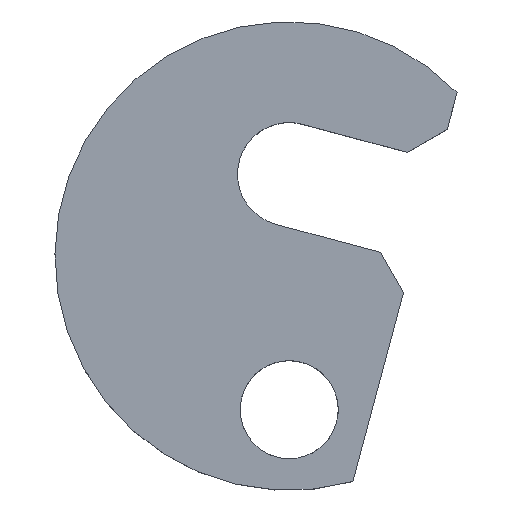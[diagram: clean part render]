
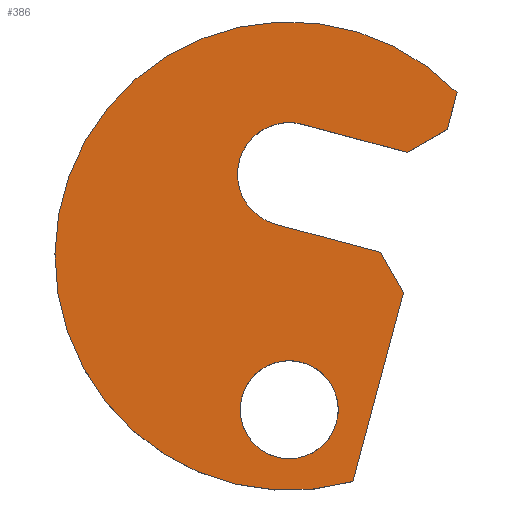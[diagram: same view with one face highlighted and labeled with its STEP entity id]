
A CAD part, top view. The second image highlights one B-rep face of the part: STEP entity #386.
In plain terms, the highlighted planar face has unit normal (0, 0, 1).
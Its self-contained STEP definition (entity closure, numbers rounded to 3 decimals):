
#151=CARTESIAN_POINT('Vertex',(5.844,-20.691,8.)) ;
#158=CARTESIAN_POINT('Vertex',(10.494,-3.335,8.)) ;
#161=CARTESIAN_POINT('Line Origine',(8.169,-12.013,8.)) ;
#182=CARTESIAN_POINT('Vertex',(8.373,0.339,8.)) ;
#185=CARTESIAN_POINT('Line Origine',(9.434,-1.498,8.)) ;
#206=CARTESIAN_POINT('Vertex',(-1.229,2.912,8.)) ;
#209=CARTESIAN_POINT('Line Origine',(3.572,1.625,8.)) ;
#226=CARTESIAN_POINT('Axis2P3D Location',(0.,7.5,8.)) ;
#230=CARTESIAN_POINT('Vertex',(1.229,12.088,8.)) ;
#254=CARTESIAN_POINT('Vertex',(10.832,9.515,8.)) ;
#257=CARTESIAN_POINT('Line Origine',(6.031,10.802,8.)) ;
#278=CARTESIAN_POINT('Vertex',(14.506,11.637,8.)) ;
#281=CARTESIAN_POINT('Line Origine',(12.669,10.576,8.)) ;
#293=CARTESIAN_POINT('Line Origine',(14.956,13.317,8.)) ;
#297=CARTESIAN_POINT('Vertex',(15.406,14.996,8.)) ;
#317=CARTESIAN_POINT('Axis2P3D Location',(0.,0.,8.)) ;
#329=CARTESIAN_POINT('Axis2P3D Location',(0.,0.,8.)) ;
#345=CARTESIAN_POINT('Control Point',(2.157,-10.151,8.)) ;
#346=CARTESIAN_POINT('Control Point',(1.537,-9.812,8.)) ;
#347=CARTESIAN_POINT('Control Point',(0.85,-9.595,8.)) ;
#348=CARTESIAN_POINT('Control Point',(0.129,-9.517,8.)) ;
#349=CARTESIAN_POINT('Control Point',(-1.306,-9.649,8.)) ;
#350=CARTESIAN_POINT('Control Point',(-2.584,-10.313,8.)) ;
#351=CARTESIAN_POINT('Control Point',(-3.15,-10.768,8.)) ;
#352=CARTESIAN_POINT('Control Point',(-4.071,-11.876,8.)) ;
#353=CARTESIAN_POINT('Control Point',(-4.505,-13.25,8.)) ;
#354=CARTESIAN_POINT('Control Point',(-4.583,-13.971,8.)) ;
#355=CARTESIAN_POINT('Control Point',(-4.451,-15.406,8.)) ;
#356=CARTESIAN_POINT('Control Point',(-3.787,-16.684,8.)) ;
#357=CARTESIAN_POINT('Control Point',(-3.332,-17.25,8.)) ;
#358=CARTESIAN_POINT('Control Point',(-2.778,-17.71,8.)) ;
#359=CARTESIAN_POINT('Control Point',(-2.157,-18.049,8.)) ;
#360=CARTESIAN_POINT('Vertex',(2.157,-10.151,8.)) ;
#362=CARTESIAN_POINT('Vertex',(-2.157,-18.049,8.)) ;
#366=CARTESIAN_POINT('Control Point',(-2.157,-18.049,8.)) ;
#367=CARTESIAN_POINT('Control Point',(-1.537,-18.388,8.)) ;
#368=CARTESIAN_POINT('Control Point',(-0.85,-18.605,8.)) ;
#369=CARTESIAN_POINT('Control Point',(-0.129,-18.683,8.)) ;
#370=CARTESIAN_POINT('Control Point',(1.306,-18.551,8.)) ;
#371=CARTESIAN_POINT('Control Point',(2.584,-17.887,8.)) ;
#372=CARTESIAN_POINT('Control Point',(3.15,-17.432,8.)) ;
#373=CARTESIAN_POINT('Control Point',(4.071,-16.324,8.)) ;
#374=CARTESIAN_POINT('Control Point',(4.505,-14.95,8.)) ;
#375=CARTESIAN_POINT('Control Point',(4.583,-14.229,8.)) ;
#376=CARTESIAN_POINT('Control Point',(4.451,-12.794,8.)) ;
#377=CARTESIAN_POINT('Control Point',(3.787,-11.516,8.)) ;
#378=CARTESIAN_POINT('Control Point',(3.332,-10.95,8.)) ;
#379=CARTESIAN_POINT('Control Point',(2.778,-10.49,8.)) ;
#380=CARTESIAN_POINT('Control Point',(2.157,-10.151,8.)) ;
#162=DIRECTION('Vector Direction',(-0.259,-0.966,0.)) ;
#186=DIRECTION('Vector Direction',(-0.5,0.866,0.)) ;
#210=DIRECTION('Vector Direction',(-0.966,0.259,0.)) ;
#227=DIRECTION('Axis2P3D Direction',(0.,0.,1.)) ;
#258=DIRECTION('Vector Direction',(0.966,-0.259,0.)) ;
#282=DIRECTION('Vector Direction',(0.866,0.5,0.)) ;
#294=DIRECTION('Vector Direction',(-0.259,-0.966,0.)) ;
#318=DIRECTION('Axis2P3D Direction',(0.,0.,1.)) ;
#330=DIRECTION('Axis2P3D Direction',(0.,0.,1.)) ;
#331=DIRECTION('Axis2P3D XDirection',(1.,0.,0.)) ;
#228=AXIS2_PLACEMENT_3D('Circle Axis2P3D',#226,#227,$) ;
#319=AXIS2_PLACEMENT_3D('Circle Axis2P3D',#317,#318,$) ;
#332=AXIS2_PLACEMENT_3D('Plane Axis2P3D',#329,#330,#331) ;
#335=ORIENTED_EDGE('',*,*,#165,.F.) ;
#336=ORIENTED_EDGE('',*,*,#189,.T.) ;
#337=ORIENTED_EDGE('',*,*,#213,.T.) ;
#338=ORIENTED_EDGE('',*,*,#232,.T.) ;
#339=ORIENTED_EDGE('',*,*,#261,.T.) ;
#340=ORIENTED_EDGE('',*,*,#285,.T.) ;
#341=ORIENTED_EDGE('',*,*,#299,.F.) ;
#342=ORIENTED_EDGE('',*,*,#321,.T.) ;
#383=ORIENTED_EDGE('',*,*,#364,.F.) ;
#384=ORIENTED_EDGE('',*,*,#381,.F.) ;
#385=FACE_BOUND('',#382,.T.) ;
#163=VECTOR('Line Direction',#162,1.) ;
#187=VECTOR('Line Direction',#186,1.) ;
#211=VECTOR('Line Direction',#210,1.) ;
#259=VECTOR('Line Direction',#258,1.) ;
#283=VECTOR('Line Direction',#282,1.) ;
#295=VECTOR('Line Direction',#294,1.) ;
#386=ADVANCED_FACE('PartBody',(#343,#385),#333,.T.) ;
#344=B_SPLINE_CURVE_WITH_KNOTS('',5,(#345,#346,#347,#348,#349,#350,#351,#352,#353,#354,#355,#356,#357,#358,#359),.UNSPECIFIED.,.F.,.U.,(6,3,3,3,6),(33.093,36.627,40.162,43.696,47.23),.UNSPECIFIED.) ;
#365=B_SPLINE_CURVE_WITH_KNOTS('',5,(#366,#367,#368,#369,#370,#371,#372,#373,#374,#375,#376,#377,#378,#379,#380),.UNSPECIFIED.,.F.,.U.,(6,3,3,3,6),(18.956,22.49,26.024,29.559,33.093),.UNSPECIFIED.) ;
#229=CIRCLE('generated circle',#228,4.75) ;
#320=CIRCLE('generated circle',#319,21.5) ;
#165=EDGE_CURVE('',#159,#152,#164,.T.) ;
#189=EDGE_CURVE('',#159,#183,#188,.T.) ;
#213=EDGE_CURVE('',#183,#207,#212,.T.) ;
#232=EDGE_CURVE('',#207,#231,#229,.F.) ;
#261=EDGE_CURVE('',#231,#255,#260,.T.) ;
#285=EDGE_CURVE('',#255,#279,#284,.T.) ;
#299=EDGE_CURVE('',#298,#279,#296,.T.) ;
#321=EDGE_CURVE('',#298,#152,#320,.T.) ;
#364=EDGE_CURVE('',#361,#363,#344,.T.) ;
#381=EDGE_CURVE('',#363,#361,#365,.T.) ;
#334=EDGE_LOOP('',(#335,#336,#337,#338,#339,#340,#341,#342)) ;
#382=EDGE_LOOP('',(#383,#384)) ;
#343=FACE_OUTER_BOUND('',#334,.T.) ;
#164=LINE('Line',#161,#163) ;
#188=LINE('Line',#185,#187) ;
#212=LINE('Line',#209,#211) ;
#260=LINE('Line',#257,#259) ;
#284=LINE('Line',#281,#283) ;
#296=LINE('Line',#293,#295) ;
#333=PLANE('Plane',#332) ;
#152=VERTEX_POINT('',#151) ;
#159=VERTEX_POINT('',#158) ;
#183=VERTEX_POINT('',#182) ;
#207=VERTEX_POINT('',#206) ;
#231=VERTEX_POINT('',#230) ;
#255=VERTEX_POINT('',#254) ;
#279=VERTEX_POINT('',#278) ;
#298=VERTEX_POINT('',#297) ;
#361=VERTEX_POINT('',#360) ;
#363=VERTEX_POINT('',#362) ;
